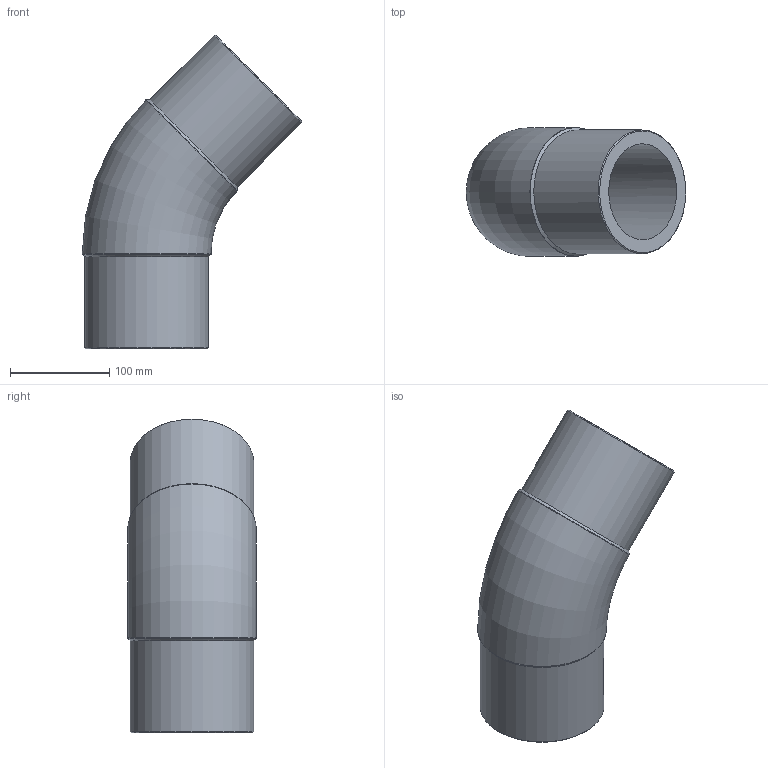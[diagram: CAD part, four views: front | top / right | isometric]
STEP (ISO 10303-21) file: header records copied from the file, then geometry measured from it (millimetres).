
FILE_DESCRIPTION(/* description */ ('Unknown'),/* implementation_level */ '2;1');
FILE_NAME(/* name */ 'G4P125G',/* time_stamp */ '2022-01-20T15:45:46+01:00',/* author */ ('Unknown'),/* organization */ ('Unknown'),/* preprocessor_version */ 'ST-DEVELOPER v18.1',/* originating_system */ 'Solid Edge',/* authorisation */ 'Unknown');
FILE_SCHEMA (('AUTOMOTIVE_DESIGN {1 0 10303 214 3 1 1}'));
Length unit declared in the file: millimetre
Products named in the file (1): G4P125G
Bounding box: 221.62 x 130 x 316.62 mm (x, y, z)
Volume: 1682882.1 mm3; surface area: 230416.2 mm2
Topology: 1 solids, 1 shells, 14 faces, 34 edges, 22 vertices
Faces by surface type: cylinder 6, cone 4, plane 2, torus 2
Full cylindrical faces by diameter (mm): 97 x2, 125 x2, 130 x2
Entity records: 370 total; most frequent: CARTESIAN_POINT 70, DIRECTION 60, ORIENTED_EDGE 38, AXIS2_PLACEMENT_3D 30, EDGE_LOOP 27, FACE_BOUND 27, EDGE_CURVE 19, VERTEX_POINT 18
